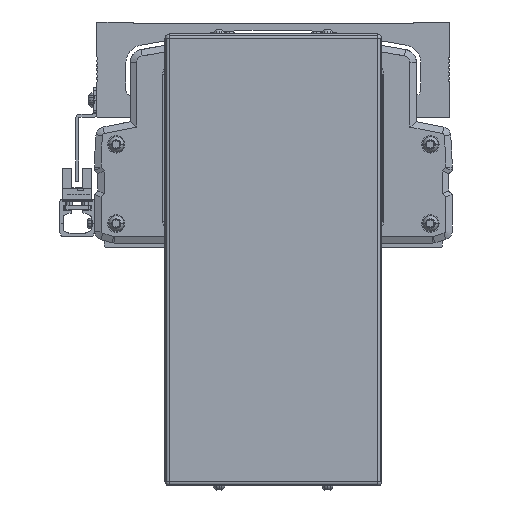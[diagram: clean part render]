
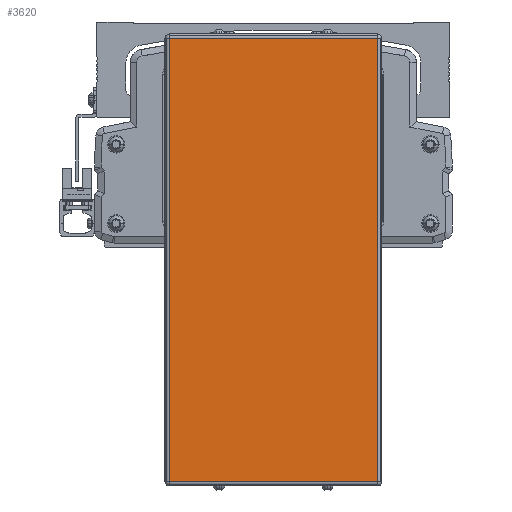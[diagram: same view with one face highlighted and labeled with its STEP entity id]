
A CAD part, front view. The second image highlights one B-rep face of the part: STEP entity #3620.
In plain terms, the highlighted planar face has unit normal (0, -1, 0).
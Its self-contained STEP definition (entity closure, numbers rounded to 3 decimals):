
#3620=ADVANCED_FACE('',(#9703),#9704,.T.);
#9703=FACE_OUTER_BOUND('',#18738,.T.);
#9704=PLANE('',#18739);
#18738=EDGE_LOOP('',(#30963,#30964,#30965,#30966));
#18739=AXIS2_PLACEMENT_3D('',#30967,#30968,#30969);
#30963=ORIENTED_EDGE('',*,*,#56164,.F.);
#30964=ORIENTED_EDGE('',*,*,#56165,.F.);
#30965=ORIENTED_EDGE('',*,*,#56166,.F.);
#30966=ORIENTED_EDGE('',*,*,#56167,.F.);
#30967=CARTESIAN_POINT('',(-600.,-372.778,-57.8));
#30968=DIRECTION('',(0.,-1.0,0.));
#30969=DIRECTION('',(0.,0.,-1.0));
#56164=EDGE_CURVE('',#67334,#67335,#67336,.T.);
#56165=EDGE_CURVE('',#67337,#67334,#67338,.T.);
#56166=EDGE_CURVE('',#67339,#67337,#67340,.T.);
#56167=EDGE_CURVE('',#67335,#67339,#67341,.T.);
#67334=VERTEX_POINT('',#83346);
#67335=VERTEX_POINT('',#83347);
#67336=LINE('',#83348,#83349);
#67337=VERTEX_POINT('',#83350);
#67338=LINE('',#83351,#83352);
#67339=VERTEX_POINT('',#83353);
#67340=LINE('',#83354,#83355);
#67341=LINE('',#83356,#83357);
#83346=CARTESIAN_POINT('',(-648.,-372.778,44.5));
#83347=CARTESIAN_POINT('',(-552.,-372.778,44.5));
#83348=CARTESIAN_POINT('',(-600.,-372.778,44.5));
#83349=VECTOR('',#103987,10.0);
#83350=CARTESIAN_POINT('',(-648.,-372.778,-160.1));
#83351=CARTESIAN_POINT('',(-648.,-372.778,-57.8));
#83352=VECTOR('',#103988,10.0);
#83353=CARTESIAN_POINT('',(-552.,-372.778,-160.1));
#83354=CARTESIAN_POINT('',(-600.,-372.778,-160.1));
#83355=VECTOR('',#103989,10.0);
#83356=CARTESIAN_POINT('',(-552.,-372.778,-57.8));
#83357=VECTOR('',#103990,10.0);
#103987=DIRECTION('',(1.0,0.,0.));
#103988=DIRECTION('',(0.,0.,1.0));
#103989=DIRECTION('',(-1.0,0.,0.));
#103990=DIRECTION('',(0.,0.,-1.0));
